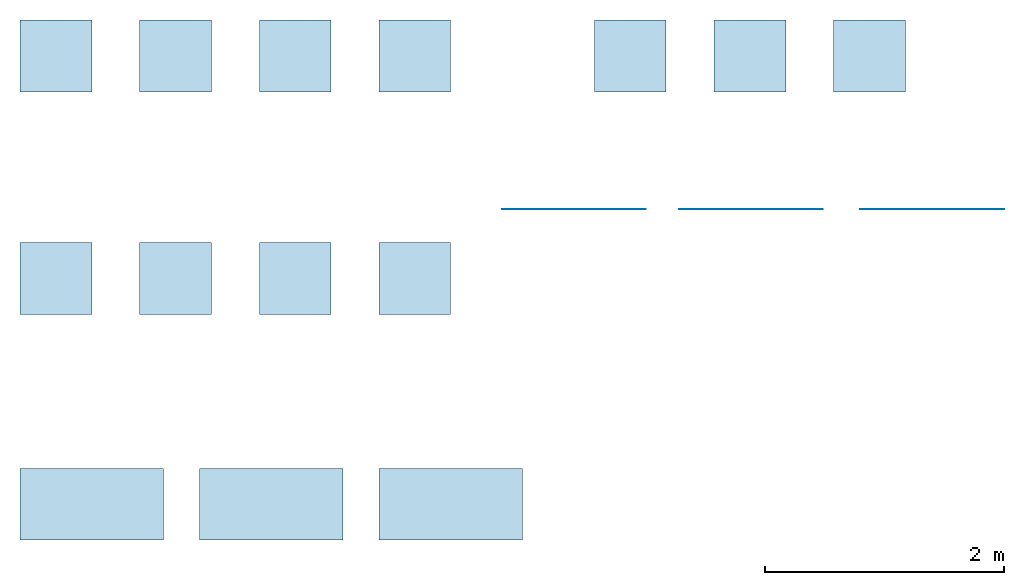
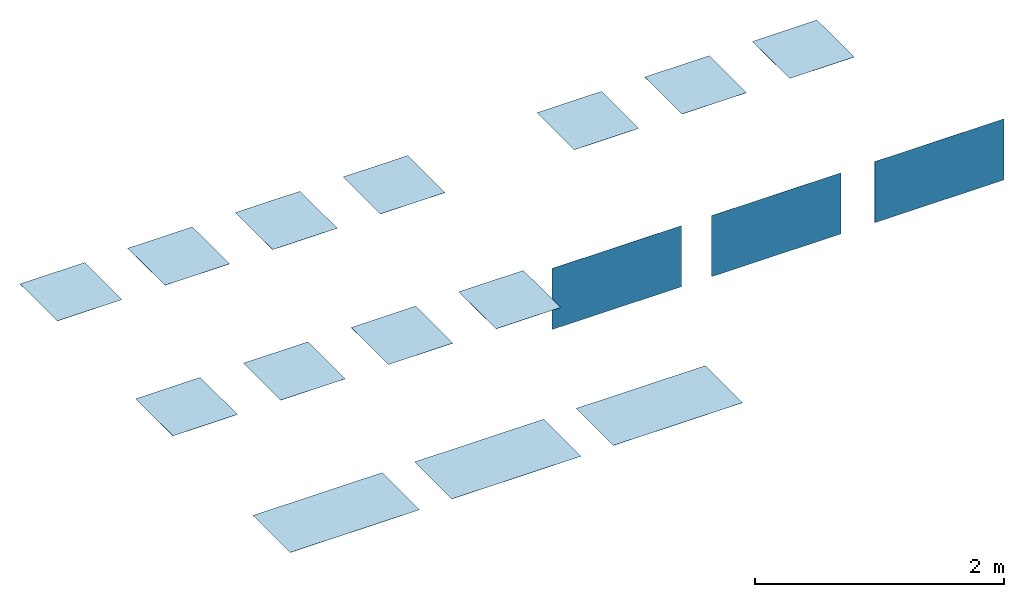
# One storey: 14 slabs, 3 walls.
"""IFC2X3 building model written with IfcOpenShell, lengths in metres."""

from ifc_helpers import new_model, entity, si_unit, converted_unit, derived_unit, direction, frame, frame_2d, origin, origin_2d_with_axis, place, context, subcontext, project, spatial, rectangle, extrude, material, layer, layer_set, layer_usage, type_object, element, save


model = new_model("IFC2X3")

# Units and contexts
model_context = context("Model", 3, precision=1e-05, world=origin(), true_north=direction((6.12303176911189e-17, 1.0)))
body_context = subcontext(model_context, "Body", "Model", "MODEL_VIEW")
ifc_project = project(units=[si_unit("LENGTHUNIT", "METRE"), si_unit("AREAUNIT", "SQUARE_METRE"), si_unit("VOLUMEUNIT", "CUBIC_METRE"), converted_unit("PLANEANGLEUNIT", "DEGREE", entity("IfcRatioMeasure", 0.0174532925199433), si_unit("PLANEANGLEUNIT", "RADIAN"), dimensions=[0, 0, 0, 0, 0, 0, 0]), si_unit("MASSUNIT", "GRAM", prefix="KILO"), si_unit("TIMEUNIT", "SECOND"), si_unit("FREQUENCYUNIT", "HERTZ"), si_unit("THERMODYNAMICTEMPERATUREUNIT", "DEGREE_CELSIUS"), derived_unit("THERMALTRANSMITTANCEUNIT", [(si_unit("MASSUNIT", "GRAM", prefix="KILO"), 1), (si_unit("THERMODYNAMICTEMPERATUREUNIT", "KELVIN"), -1), (si_unit("TIMEUNIT", "SECOND"), -3)]), derived_unit("VOLUMETRICFLOWRATEUNIT", [(si_unit("LENGTHUNIT", "METRE"), 3), (si_unit("TIMEUNIT", "SECOND"), -1)]), si_unit("ELECTRICCURRENTUNIT", "AMPERE"), si_unit("ELECTRICVOLTAGEUNIT", "VOLT"), si_unit("POWERUNIT", "WATT"), si_unit("FORCEUNIT", "NEWTON", prefix="KILO"), si_unit("ILLUMINANCEUNIT", "LUX"), si_unit("LUMINOUSFLUXUNIT", "LUMEN"), si_unit("LUMINOUSINTENSITYUNIT", "CANDELA"), derived_unit("USERDEFINED", [(si_unit("MASSUNIT", "GRAM", prefix="KILO"), -1), (si_unit("LENGTHUNIT", "METRE"), -2), (si_unit("TIMEUNIT", "SECOND"), 3), (si_unit("LUMINOUSFLUXUNIT", "LUMEN"), 1)]), derived_unit("LINEARVELOCITYUNIT", [(si_unit("LENGTHUNIT", "METRE"), 1), (si_unit("TIMEUNIT", "SECOND"), -1)]), si_unit("PRESSUREUNIT", "PASCAL"), derived_unit("USERDEFINED", [(si_unit("LENGTHUNIT", "METRE"), -2), (si_unit("MASSUNIT", "GRAM", prefix="KILO"), 1), (si_unit("TIMEUNIT", "SECOND"), -2)])], contexts=[model_context])

# Site, building, storey
site_placement = place(None, origin())
site = spatial("IfcSite", under=ifc_project, at=site_placement, Name="Default", CompositionType="ELEMENT")
building_placement = place(site_placement, origin())
building = spatial("IfcBuilding", under=site, at=building_placement, CompositionType="ELEMENT")
storey_placement = place(building_placement, origin())
storey = spatial("IfcBuildingStorey", under=building, at=storey_placement, Name="CEPPO DI GRE FLOOR TILES", CompositionType="ELEMENT", Elevation=0.0)

# Slabs
ifc_material_1 = material(Name="VIVES CEPPO DI GRE CEMENTO 60x60")
ifc_layer_1 = layer(ifc_material_1, 0.001)
ifc_layer_set_1 = layer_set([ifc_layer_1], Name="Suelo:VIVES - CEPPO DI GRE CEMENTO 60x60")
ifc_layer_usage_1 = layer_usage(ifc_layer_set_1, "AXIS3", "POSITIVE", 0.0)
slab_1_placement = place(storey_placement, origin())
element("IfcSlab", 1, at=slab_1_placement, inside=storey, material=ifc_layer_usage_1, Name="Suelo:VIVES - CEPPO DI GRE CEMENTO 60x60", ObjectType="Suelo:VIVES - CEPPO DI GRE CEMENTO 60x60", PredefinedType="FLOOR", context=body_context, shape_type="SweptSolid", body=[
    extrude(rectangle(XDim=0.6, YDim=0.6, at=origin_2d_with_axis()), frame((-2.58231734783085, -6.27056756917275, 0.0), z_axis=(0.0, 0.0, -1.0), x_axis=(0.0, 1.0, 0.0)), (0.0, 0.0, 1.0), 0.001),
])
ifc_material_2 = material(Name="VIVES CEPPO DI GRE GRIS 60x60")
ifc_layer_2 = layer(ifc_material_2, 0.001)
ifc_layer_set_2 = layer_set([ifc_layer_2], Name="Suelo:VIVES - CEPPO DI GRE GRIS 60x60")
ifc_layer_usage_2 = layer_usage(ifc_layer_set_2, "AXIS3", "POSITIVE", 0.0)
slab_2_placement = place(storey_placement, origin())
element("IfcSlab", 2, at=slab_2_placement, inside=storey, material=ifc_layer_usage_2, Name="Suelo:VIVES - CEPPO DI GRE GRIS 60x60", ObjectType="Suelo:VIVES - CEPPO DI GRE GRIS 60x60", PredefinedType="FLOOR", context=body_context, shape_type="SweptSolid", body=[
    extrude(rectangle(XDim=0.6, YDim=0.6, at=origin_2d_with_axis()), frame((-1.58231734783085, -6.27056756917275, 0.0), z_axis=(0.0, 0.0, -1.0), x_axis=(0.0, 1.0, 0.0)), (0.0, 0.0, 1.0), 0.001),
])
ifc_material_3 = material(Name="VIVES CEPPO DI GRE MARFIL 60x60")
ifc_layer_3 = layer(ifc_material_3, 0.001)
ifc_layer_set_3 = layer_set([ifc_layer_3], Name="Suelo:VIVES - CEPPO DI GRE MARFIL 60x60")
ifc_layer_usage_3 = layer_usage(ifc_layer_set_3, "AXIS3", "POSITIVE", 0.0)
slab_3_placement = place(storey_placement, origin())
element("IfcSlab", 3, at=slab_3_placement, inside=storey, material=ifc_layer_usage_3, Name="Suelo:VIVES - CEPPO DI GRE MARFIL 60x60", ObjectType="Suelo:VIVES - CEPPO DI GRE MARFIL 60x60", PredefinedType="FLOOR", context=body_context, shape_type="SweptSolid", body=[
    extrude(rectangle(XDim=0.6, YDim=0.6, at=origin_2d_with_axis()), frame((-0.582317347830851, -6.27056756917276, 0.0), z_axis=(0.0, 0.0, -1.0), x_axis=(0.0, 1.0, 0.0)), (0.0, 0.0, 1.0), 0.001),
])
ifc_material_4 = material(Name="VIVES ORIYAS NATURAL 60x60")
ifc_layer_4 = layer(ifc_material_4, 0.001)
ifc_layer_set_4 = layer_set([ifc_layer_4], Name="Suelo:VIVES - ORIYAS NATURAL 60x60")
ifc_layer_usage_4 = layer_usage(ifc_layer_set_4, "AXIS3", "POSITIVE", 0.0)
slab_4_placement = place(storey_placement, origin())
element("IfcSlab", 4, at=slab_4_placement, inside=storey, material=ifc_layer_usage_4, Name="Suelo:VIVES - ORIYAS NATURAL 60x60", ObjectType="Suelo:VIVES - ORIYAS NATURAL 60x60", PredefinedType="FLOOR", context=body_context, shape_type="SweptSolid", body=[
    extrude(rectangle(XDim=0.6, YDim=0.6, at=origin_2d_with_axis()), frame((0.417682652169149, -6.27056756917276, 0.0), z_axis=(0.0, 0.0, -1.0), x_axis=(0.0, 1.0, 0.0)), (0.0, 0.0, 1.0), 0.001),
])
ifc_material_5 = material(Name="VIVES CEPPO DI GRE-R CEMENTO 59.3x59.3")
ifc_layer_5 = layer(ifc_material_5, 0.001)
ifc_layer_set_5 = layer_set([ifc_layer_5], Name="Suelo:VIVES - CEPPO DI GRE-R CEMENTO 59.3x59.3")
ifc_layer_usage_5 = layer_usage(ifc_layer_set_5, "AXIS3", "POSITIVE", 0.0)
slab_5_placement = place(storey_placement, origin())
element("IfcSlab", 5, at=slab_5_placement, inside=storey, material=ifc_layer_usage_5, Name="Suelo:VIVES - CEPPO DI GRE-R CEMENTO 59.3x59.3", ObjectType="Suelo:VIVES - CEPPO DI GRE-R CEMENTO 59.3x59.3", PredefinedType="FLOOR", context=body_context, shape_type="SweptSolid", body=[
    extrude(rectangle(XDim=0.6, YDim=0.6, at=origin_2d_with_axis()), frame((-2.58231734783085, -4.41056756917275, 0.0), z_axis=(0.0, 0.0, -1.0), x_axis=(0.0, 1.0, 0.0)), (0.0, 0.0, 1.0), 0.001),
])
ifc_material_6 = material(Name="VIVES CEPPO DI GRE-R GRIS 59.3x59.3")
ifc_layer_6 = layer(ifc_material_6, 0.001)
ifc_layer_set_6 = layer_set([ifc_layer_6], Name="Suelo:VIVES - CEPPO DI GRE-R GRIS 59.3x59.3")
ifc_layer_usage_6 = layer_usage(ifc_layer_set_6, "AXIS3", "POSITIVE", 0.0)
slab_6_placement = place(storey_placement, origin())
element("IfcSlab", 6, at=slab_6_placement, inside=storey, material=ifc_layer_usage_6, Name="Suelo:VIVES - CEPPO DI GRE-R GRIS 59.3x59.3", ObjectType="Suelo:VIVES - CEPPO DI GRE-R GRIS 59.3x59.3", PredefinedType="FLOOR", context=body_context, shape_type="SweptSolid", body=[
    extrude(rectangle(XDim=0.6, YDim=0.6, at=origin_2d_with_axis()), frame((-1.58231734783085, -4.41056756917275, 0.0), z_axis=(0.0, 0.0, -1.0), x_axis=(0.0, 1.0, 0.0)), (0.0, 0.0, 1.0), 0.001),
])
ifc_material_7 = material(Name="VIVES CEPPO DI GRE-R MARFIL 59.3x59.3")
ifc_layer_7 = layer(ifc_material_7, 0.001)
ifc_layer_set_7 = layer_set([ifc_layer_7], Name="Suelo:VIVES - CEPPO DI GRE-R MARFIL 59.3x59.3")
ifc_layer_usage_7 = layer_usage(ifc_layer_set_7, "AXIS3", "POSITIVE", 0.0)
slab_7_placement = place(storey_placement, origin())
element("IfcSlab", 7, at=slab_7_placement, inside=storey, material=ifc_layer_usage_7, Name="Suelo:VIVES - CEPPO DI GRE-R MARFIL 59.3x59.3", ObjectType="Suelo:VIVES - CEPPO DI GRE-R MARFIL 59.3x59.3", PredefinedType="FLOOR", context=body_context, shape_type="SweptSolid", body=[
    extrude(rectangle(XDim=0.6, YDim=0.6, at=origin_2d_with_axis()), frame((-0.582317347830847, -4.41056756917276, 0.0), z_axis=(0.0, 0.0, -1.0), x_axis=(0.0, 1.0, 0.0)), (0.0, 0.0, 1.0), 0.001),
])
ifc_material_8 = material(Name="VIVES ORIYAS-R NATURAL 59.3x59.3")
ifc_layer_8 = layer(ifc_material_8, 0.001)
ifc_layer_set_8 = layer_set([ifc_layer_8], Name="Suelo:VIVES - ORIYAS-R NATURAL 59.3x59.3")
ifc_layer_usage_8 = layer_usage(ifc_layer_set_8, "AXIS3", "POSITIVE", 0.0)
slab_8_placement = place(storey_placement, origin())
element("IfcSlab", 8, at=slab_8_placement, inside=storey, material=ifc_layer_usage_8, Name="Suelo:VIVES - ORIYAS-R NATURAL 59.3x59.3", ObjectType="Suelo:VIVES - ORIYAS-R NATURAL 59.3x59.3", PredefinedType="FLOOR", context=body_context, shape_type="SweptSolid", body=[
    extrude(rectangle(XDim=0.6, YDim=0.6, at=origin_2d_with_axis()), frame((0.417682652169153, -4.41056756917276, 0.0), z_axis=(0.0, 0.0, -1.0), x_axis=(0.0, 1.0, 0.0)), (0.0, 0.0, 1.0), 0.001),
])
ifc_material_9 = material(Name="VIVES MOSAICO AYMARAS CEMENTO 24.2x39.5")
ifc_layer_9 = layer(ifc_material_9, 0.001)
ifc_layer_set_9 = layer_set([ifc_layer_9], Name="Suelo:VIVES - MOS. AYMARAS CEMENTO 24.2x39.5")
ifc_layer_usage_9 = layer_usage(ifc_layer_set_9, "AXIS3", "POSITIVE", 0.0)
slab_9_placement = place(storey_placement, origin())
element("IfcSlab", 9, at=slab_9_placement, inside=storey, material=ifc_layer_usage_9, Name="Suelo:VIVES - MOS. AYMARAS CEMENTO 24.2x39.5", ObjectType="Suelo:VIVES - MOS. AYMARAS CEMENTO 24.2x39.5", PredefinedType="FLOOR", context=body_context, shape_type="SweptSolid", body=[
    extrude(rectangle(XDim=0.600000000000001, YDim=0.599999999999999, at=frame_2d((2.77555756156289e-16, 0.0), x_axis=(1.0, 0.0))), frame((2.21768265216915, -4.41056756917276, 0.0), z_axis=(0.0, 0.0, -1.0), x_axis=(0.0, 1.0, 0.0)), (0.0, 0.0, 1.0), 0.001),
])
ifc_material_10 = material(Name="VIVES MOSAICO AYMARAS GRIS 24.2x39.5")
ifc_layer_10 = layer(ifc_material_10, 0.001)
ifc_layer_set_10 = layer_set([ifc_layer_10], Name="Suelo:VIVES - MOS. AYMARAS GRIS 24.2x39.5")
ifc_layer_usage_10 = layer_usage(ifc_layer_set_10, "AXIS3", "POSITIVE", 0.0)
slab_10_placement = place(storey_placement, origin())
element("IfcSlab", 10, at=slab_10_placement, inside=storey, material=ifc_layer_usage_10, Name="Suelo:VIVES - MOS. AYMARAS GRIS 24.2x39.5", ObjectType="Suelo:VIVES - MOS. AYMARAS GRIS 24.2x39.5", PredefinedType="FLOOR", context=body_context, shape_type="SweptSolid", body=[
    extrude(rectangle(XDim=0.6, YDim=0.600000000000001, at=frame_2d((0.0, 2.4980018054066e-16), x_axis=(1.0, 0.0))), frame((3.21768265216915, -4.41056756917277, 0.0), z_axis=(0.0, 0.0, -1.0), x_axis=(0.0, 1.0, 0.0)), (0.0, 0.0, 1.0), 0.001),
])
ifc_material_11 = material(Name="VIVES MOSAICO AYMARAS MARFIL 24.2x39.5")
ifc_layer_11 = layer(ifc_material_11, 0.001)
ifc_layer_set_11 = layer_set([ifc_layer_11], Name="Suelo:VIVES - MOS. AYMARAS MARFIL 24.2x39.5")
ifc_layer_usage_11 = layer_usage(ifc_layer_set_11, "AXIS3", "POSITIVE", 0.0)
slab_11_placement = place(storey_placement, origin())
element("IfcSlab", 11, at=slab_11_placement, inside=storey, material=ifc_layer_usage_11, Name="Suelo:VIVES - MOS. AYMARAS MARFIL 24.2x39.5", ObjectType="Suelo:VIVES - MOS. AYMARAS MARFIL 24.2x39.5", PredefinedType="FLOOR", context=body_context, shape_type="SweptSolid", body=[
    extrude(rectangle(XDim=0.6, YDim=0.600000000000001, at=frame_2d((0.0, 2.4980018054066e-16), x_axis=(1.0, 0.0))), frame((4.21768265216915, -4.41056756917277, 0.0), z_axis=(0.0, 0.0, -1.0), x_axis=(0.0, 1.0, 0.0)), (0.0, 0.0, 1.0), 0.001),
])
ifc_material_12 = material(Name="VIVES CEPPO DI GRE-R CEMENTO 59.3x119.3")
ifc_layer_12 = layer(ifc_material_12, 0.0011)
ifc_layer_set_12 = layer_set([ifc_layer_12], Name="Suelo:VIVES - CEPPO DI GRE-R CEMENTO 59.3x119.3")
ifc_layer_usage_12 = layer_usage(ifc_layer_set_12, "AXIS3", "POSITIVE", 0.0)
slab_12_placement = place(storey_placement, origin())
element("IfcSlab", 12, at=slab_12_placement, inside=storey, material=ifc_layer_usage_12, Name="Suelo:VIVES - CEPPO DI GRE-R CEMENTO 59.3x119.3", ObjectType="Suelo:VIVES - CEPPO DI GRE-R CEMENTO 59.3x119.3", PredefinedType="FLOOR", context=body_context, shape_type="SweptSolid", body=[
    extrude(rectangle(XDim=0.6, YDim=1.2, at=origin_2d_with_axis()), frame((-2.28231734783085, -8.15812642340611, 0.0), z_axis=(0.0, 0.0, -1.0), x_axis=(0.0, 1.0, 0.0)), (0.0, 0.0, 1.0), 0.0011),
])
ifc_material_13 = material(Name="VIVES CEPPO DI GRE-R GRIS 59.3x119.3")
ifc_layer_13 = layer(ifc_material_13, 0.0011)
ifc_layer_set_13 = layer_set([ifc_layer_13], Name="Suelo:VIVES - CEPPO DI GRE-R GRIS 59.3x119.3")
ifc_layer_usage_13 = layer_usage(ifc_layer_set_13, "AXIS3", "POSITIVE", 0.0)
slab_13_placement = place(storey_placement, origin())
element("IfcSlab", 13, at=slab_13_placement, inside=storey, material=ifc_layer_usage_13, Name="Suelo:VIVES - CEPPO DI GRE-R GRIS 59.3x119.3", ObjectType="Suelo:VIVES - CEPPO DI GRE-R GRIS 59.3x119.3", PredefinedType="FLOOR", context=body_context, shape_type="SweptSolid", body=[
    extrude(rectangle(XDim=0.6, YDim=1.2, at=origin_2d_with_axis()), frame((-0.782317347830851, -8.15812642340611, 0.0), z_axis=(0.0, 0.0, -1.0), x_axis=(0.0, 1.0, 0.0)), (0.0, 0.0, 1.0), 0.0011),
])
ifc_material_14 = material(Name="VIVES CEPPO DI GRE-R MARFIL 59.3x119.3")
ifc_layer_14 = layer(ifc_material_14, 0.0011)
ifc_layer_set_14 = layer_set([ifc_layer_14], Name="Suelo:VIVES - CEPPO DI GRE-R MARFIL 59.3x119.3")
ifc_layer_usage_14 = layer_usage(ifc_layer_set_14, "AXIS3", "POSITIVE", 0.0)
slab_14_placement = place(storey_placement, origin())
element("IfcSlab", 14, at=slab_14_placement, inside=storey, material=ifc_layer_usage_14, Name="Suelo:VIVES - CEPPO DI GRE-R MARFIL 59.3x119.3", ObjectType="Suelo:VIVES - CEPPO DI GRE-R MARFIL 59.3x119.3", PredefinedType="FLOOR", context=body_context, shape_type="SweptSolid", body=[
    extrude(rectangle(XDim=0.6, YDim=1.2, at=origin_2d_with_axis()), frame((0.71768265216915, -8.15812642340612, 0.0), z_axis=(0.0, 0.0, -1.0), x_axis=(0.0, 1.0, 0.0)), (0.0, 0.0, 1.0), 0.0011),
])

# Walls
ifc_layer_15 = layer(ifc_material_12, 0.0011)
ifc_layer_set_15 = layer_set([ifc_layer_15], Name="Muro básico:VIVES CEPPO DI GRE-R CEMENTO 59.3x119.3")
ifc_layer_usage_15 = layer_usage(ifc_layer_set_15, "AXIS2", "NEGATIVE", 0.00055)
wall_type_1 = type_object("IfcWallType", Name="Muro básico:VIVES CEPPO DI GRE-R CEMENTO 59.3x119.3", PredefinedType="STANDARD", material=ifc_layer_set_15)
wall_1_placement = place(storey_placement, frame((1.14658071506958, -5.69103068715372, -0.9)))
element("IfcWallStandardCase", 15, at=wall_1_placement, inside=storey, type_object=wall_type_1, material=ifc_layer_usage_15, Name="Muro básico:VIVES CEPPO DI GRE-R CEMENTO 59.3x119.3", ObjectType="Muro básico:VIVES CEPPO DI GRE-R CEMENTO 59.3x119.3", context=body_context, shape_type="SweptSolid", body=[
    extrude(rectangle(XDim=1.2, YDim=0.00109999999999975, at=frame_2d((0.6, -1.49511479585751e-16), x_axis=(-1.0, 0.0))), origin(), (0.0, 0.0, 1.0), 0.6),
])
ifc_layer_16 = layer(ifc_material_13, 0.001)
ifc_layer_set_16 = layer_set([ifc_layer_16], Name="Muro básico:VIVES CEPPO DI GRE-R GRIS 59.3x119.3")
ifc_layer_usage_16 = layer_usage(ifc_layer_set_16, "AXIS2", "NEGATIVE", 0.000500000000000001)
wall_type_2 = type_object("IfcWallType", Name="Muro básico:VIVES CEPPO DI GRE-R GRIS 59.3x119.3", PredefinedType="STANDARD", material=ifc_layer_set_16)
wall_2_placement = place(storey_placement, frame((2.62658071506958, -5.69103068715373, -0.9)))
element("IfcWallStandardCase", 16, at=wall_2_placement, inside=storey, type_object=wall_type_2, material=ifc_layer_usage_16, Name="Muro básico:VIVES CEPPO DI GRE-R GRIS 59.3x119.3", ObjectType="Muro básico:VIVES CEPPO DI GRE-R GRIS 59.3x119.3", context=body_context, shape_type="SweptSolid", body=[
    extrude(rectangle(XDim=1.2, YDim=0.000999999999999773, at=frame_2d((0.6, 3.24826970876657e-16), x_axis=(-1.0, 0.0))), origin(), (0.0, 0.0, 1.0), 0.6),
])
ifc_layer_17 = layer(ifc_material_14, 0.001)
ifc_layer_set_17 = layer_set([ifc_layer_17], Name="Muro básico:VIVES CEPPO DI GRE-R MARFIL 59.3x119.3")
ifc_layer_usage_17 = layer_usage(ifc_layer_set_17, "AXIS2", "NEGATIVE", 0.000500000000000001)
wall_type_3 = type_object("IfcWallType", Name="Muro básico:VIVES CEPPO DI GRE-R MARFIL 59.3x119.3", PredefinedType="STANDARD", material=ifc_layer_set_17)
wall_3_placement = place(storey_placement, frame((4.14158071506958, -5.69103068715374, -0.9)))
element("IfcWallStandardCase", 17, at=wall_3_placement, inside=storey, type_object=wall_type_3, material=ifc_layer_usage_17, Name="Muro básico:VIVES CEPPO DI GRE-R MARFIL 59.3x119.3", ObjectType="Muro básico:VIVES CEPPO DI GRE-R MARFIL 59.3x119.3", context=body_context, shape_type="SweptSolid", body=[
    extrude(rectangle(XDim=1.2, YDim=0.000999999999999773, at=frame_2d((0.6, 3.74808691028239e-16), x_axis=(-1.0, 0.0))), origin(), (0.0, 0.0, 1.0), 0.6),
])

save(model, "model.ifc")
